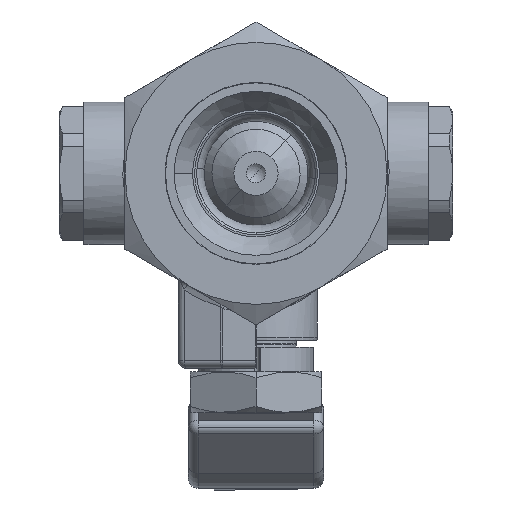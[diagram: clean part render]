
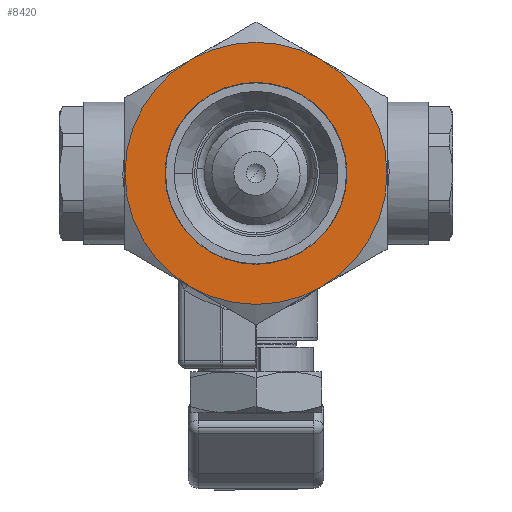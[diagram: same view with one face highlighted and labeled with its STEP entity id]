
A CAD part, left-side view. The second image highlights one B-rep face of the part: STEP entity #8420.
In plain terms, the highlighted planar face has unit normal (-1, 0, 0) as drawn and (0, 0, -1) by its records, which use the part's own axes.
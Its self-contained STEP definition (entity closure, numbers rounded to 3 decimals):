
#2497 = EDGE_CURVE ( 'NONE', #24700, #38410, #25742, .T. ) ;
#2599 = CARTESIAN_POINT ( 'NONE',  ( 0., 0., 0. ) ) ;
#3346 = DIRECTION ( 'NONE',  ( 1., 0., 0. ) ) ;
#3606 = ORIENTED_EDGE ( 'NONE', *, *, #14796, .F. ) ;
#5149 = CARTESIAN_POINT ( 'NONE',  ( 0., 0., 0. ) ) ;
#6671 = CARTESIAN_POINT ( 'NONE',  ( 32., 0., 0. ) ) ;
#6818 = DIRECTION ( 'NONE',  ( 0., 0., 1. ) ) ;
#6961 = PLANE ( 'NONE',  #43933 ) ;
#8049 = EDGE_LOOP ( 'NONE', ( #30811, #10510 ) ) ;
#8420 = ADVANCED_FACE ( 'NONE', ( #28079, #19025 ), #6961, .F. ) ;
#8688 = DIRECTION ( 'NONE',  ( 0., 0., -1. ) ) ;
#9260 = DIRECTION ( 'NONE',  ( 0., 0., -1. ) ) ;
#10510 = ORIENTED_EDGE ( 'NONE', *, *, #32418, .T. ) ;
#11700 = CARTESIAN_POINT ( 'NONE',  ( -11.1, 0., 0. ) ) ;
#11730 = EDGE_CURVE ( 'NONE', #32936, #29643, #29939, .T. ) ;
#11931 = AXIS2_PLACEMENT_3D ( 'NONE', #5149, #35603, #39312 ) ;
#14796 = EDGE_CURVE ( 'NONE', #29643, #32936, #33434, .T. ) ;
#16912 = DIRECTION ( 'NONE',  ( 0., 0., -1. ) ) ;
#18158 = CARTESIAN_POINT ( 'NONE',  ( 16., 0., 0. ) ) ;
#19025 = FACE_OUTER_BOUND ( 'NONE', #8049, .T. ) ;
#20749 = DIRECTION ( 'NONE',  ( 1., 0., 0. ) ) ;
#22776 = AXIS2_PLACEMENT_3D ( 'NONE', #2599, #9260, #22892 ) ;
#22892 = DIRECTION ( 'NONE',  ( -1., 0., 0. ) ) ;
#24034 = ORIENTED_EDGE ( 'NONE', *, *, #11730, .F. ) ;
#24196 = CIRCLE ( 'NONE', #37294, 16. ) ;
#24700 = VERTEX_POINT ( 'NONE', #28727 ) ;
#25742 = CIRCLE ( 'NONE', #30172, 16. ) ;
#28079 = FACE_BOUND ( 'NONE', #36756, .T. ) ;
#28727 = CARTESIAN_POINT ( 'NONE',  ( -16., 0., 0. ) ) ;
#29643 = VERTEX_POINT ( 'NONE', #11700 ) ;
#29939 = CIRCLE ( 'NONE', #11931, 11.1 ) ;
#30172 = AXIS2_PLACEMENT_3D ( 'NONE', #41055, #16912, #20749 ) ;
#30625 = CARTESIAN_POINT ( 'NONE',  ( 11.1, 0., 0. ) ) ;
#30811 = ORIENTED_EDGE ( 'NONE', *, *, #2497, .T. ) ;
#32418 = EDGE_CURVE ( 'NONE', #38410, #24700, #24196, .T. ) ;
#32504 = CARTESIAN_POINT ( 'NONE',  ( 0., 0., 0. ) ) ;
#32936 = VERTEX_POINT ( 'NONE', #30625 ) ;
#33434 = CIRCLE ( 'NONE', #22776, 11.1 ) ;
#35603 = DIRECTION ( 'NONE',  ( 0., 0., -1. ) ) ;
#36756 = EDGE_LOOP ( 'NONE', ( #3606, #24034 ) ) ;
#37294 = AXIS2_PLACEMENT_3D ( 'NONE', #32504, #8688, #42832 ) ;
#38410 = VERTEX_POINT ( 'NONE', #18158 ) ;
#39312 = DIRECTION ( 'NONE',  ( -1., 0., 0. ) ) ;
#41055 = CARTESIAN_POINT ( 'NONE',  ( 0., 0., 0. ) ) ;
#42832 = DIRECTION ( 'NONE',  ( 1., 0., 0. ) ) ;
#43933 = AXIS2_PLACEMENT_3D ( 'NONE', #6671, #6818, #3346 ) ;
